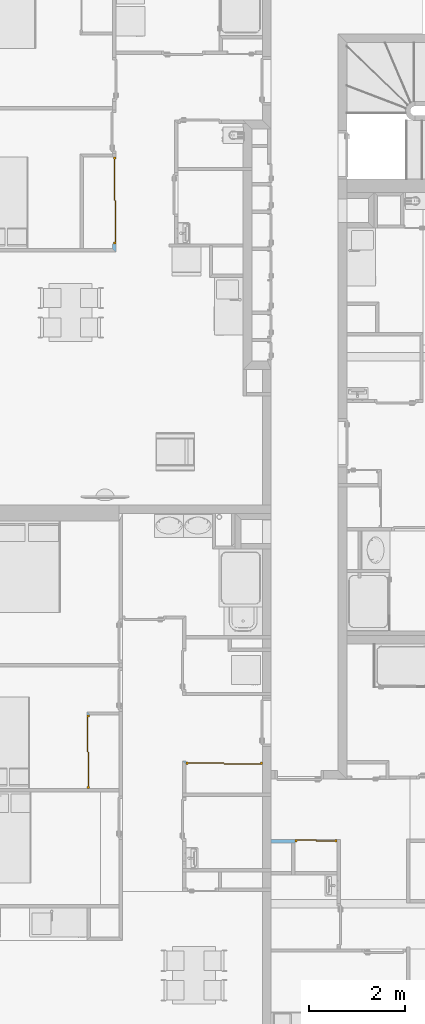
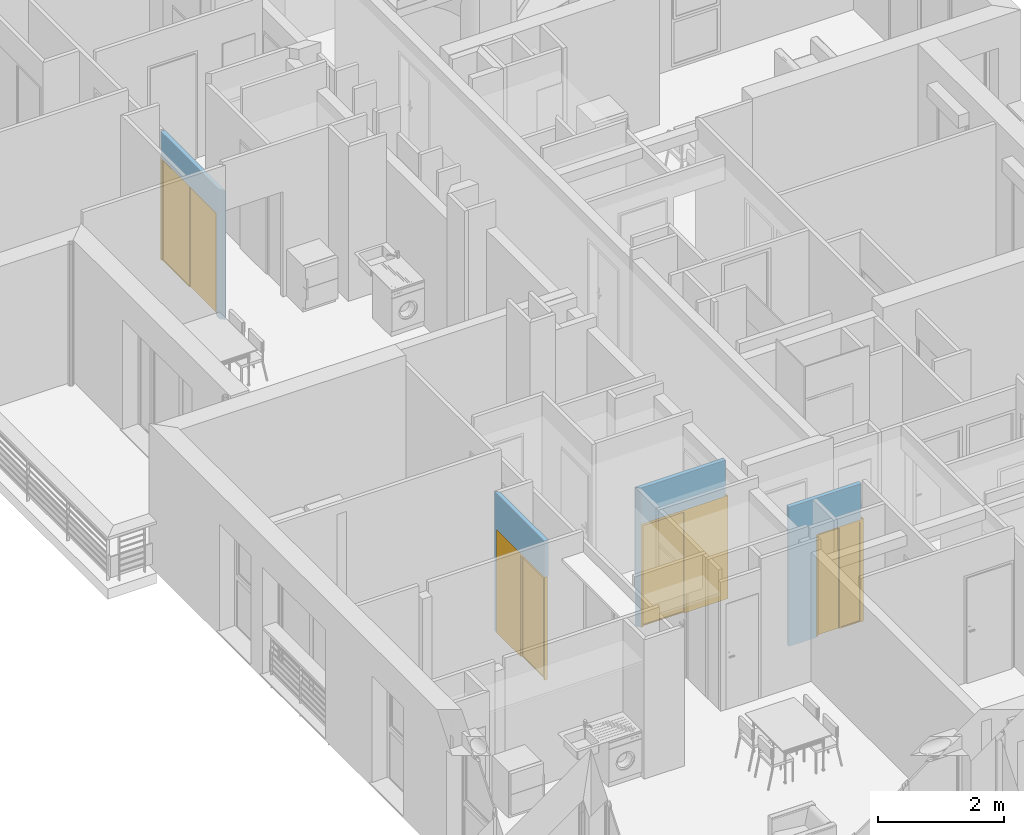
# One storey, part 87 of 164: 4 doors, 4 openings, plus 4 elements that do not belong to this part.
"""IFC2X3 building model written with IfcOpenShell, lengths in millimetres."""

import ifcopenshell
import ifcopenshell.guid

model = None  # the IFC model being written
_history = None  # IfcOwnerHistory: only IFC2X3 demands one
_inside = {}  # id of a spatial element -> (the spatial element, [elements in it])
_under = {}  # id of a project, library or spatial element -> (it, [spatial elements below it])
_declared = {}  # id of a project -> (the project, [libraries it declares])
_typed = {}  # id of a type object -> (the type object, [elements of that type])
_made_of = {}  # id of a material, layer set ... -> (it, [elements and type objects made of it])


def new_model(schema):
    """Start an empty IFC model of exactly this schema.

    Asked for "IFC4X3", IfcOpenShell would pick the latest addendum, in which some entities
    have other attributes; the version numbers below select the first issue.
    IFC2X3 requires an IfcOwnerHistory on every rooted entity: one is made here for all.
    """
    global model, _history
    if schema == "IFC4X3":
        model = ifcopenshell.file(schema_version=(4, 3, 0, 0))
    else:
        model = ifcopenshell.file(schema=schema)
    _inside.clear()
    _under.clear()
    _declared.clear()
    _typed.clear()
    _made_of.clear()
    _history = None
    if model.schema == "IFC2X3":
        org = make("IfcOrganization", Name="unknown")
        user = make(
            "IfcPersonAndOrganization",
            ThePerson=make("IfcPerson", FamilyName="unknown"),
            TheOrganization=org,
        )
        app = make(
            "IfcApplication",
            ApplicationDeveloper=org,
            Version="unknown",
            ApplicationFullName="unknown",
            ApplicationIdentifier="unknown",
        )
        _history = make(
            "IfcOwnerHistory",
            OwningUser=user,
            OwningApplication=app,
            ChangeAction="ADDED",
            CreationDate=0,
        )
    return model


def make(cls, **values):
    """One entity of the class cls with the attributes given. An attribute that is None is left unset."""
    return model.create_entity(
        cls, **{name: value for name, value in values.items() if value is not None}
    )


def entity(cls, *values):
    """Any entity or typed value of the class cls, its attributes in the order of the schema. None: left unset."""
    e = model.create_entity(cls)
    for i, value in enumerate(values):
        if value is not None:
            e[i] = value
    return e


def rooted(cls, **values):
    """An entity with a GlobalId (a new one), such as an element, a storey or a relation."""
    return make(cls, GlobalId=ifcopenshell.guid.new(), OwnerHistory=_history, **values)


def si_unit(unit_type, name, prefix=None):
    """IfcSIUnit, for example si_unit("LENGTHUNIT", "METRE", prefix="MILLI")."""
    return make("IfcSIUnit", UnitType=unit_type, Prefix=prefix, Name=name)


def converted_unit(unit_type, name, factor, base, dimensions=None, offset=None):
    """IfcConversionBasedUnit, such as the inch: factor (a typed value) times the base unit."""
    return make(
        "IfcConversionBasedUnit"
        if offset is None
        else "IfcConversionBasedUnitWithOffset",
        ConversionOffset=offset,
        Dimensions=None
        if dimensions is None
        else entity("IfcDimensionalExponents", *dimensions),
        UnitType=unit_type,
        Name=name,
        ConversionFactor=make(
            "IfcMeasureWithUnit", ValueComponent=factor, UnitComponent=base
        ),
    )


def derived_unit(unit_type, elements):
    """IfcDerivedUnit: a product of units, each with its exponent."""
    return make(
        "IfcDerivedUnit",
        Elements=[
            make("IfcDerivedUnitElement", Unit=unit, Exponent=power)
            for unit, power in elements
        ],
        UnitType=unit_type,
    )


def money_unit(currency):
    """IfcMonetaryUnit."""
    return make("IfcMonetaryUnit", Currency=currency)


def assignment(units):
    """IfcUnitAssignment: the units of a project."""
    return None if units is None else make("IfcUnitAssignment", Units=units)


def point(xyz):
    """IfcCartesianPoint."""
    return None if xyz is None else make("IfcCartesianPoint", Coordinates=xyz)


def direction(xyz):
    """IfcDirection."""
    return None if xyz is None else make("IfcDirection", DirectionRatios=xyz)


def frame(location, z_axis=None, x_axis=None):
    """IfcAxis2Placement3D, a coordinate frame: its origin and axes. An axis left out is left unset."""
    return make(
        "IfcAxis2Placement3D",
        Location=point(location),
        Axis=direction(z_axis),
        RefDirection=direction(x_axis),
    )


def frame_2d(location, x_axis=None):
    """IfcAxis2Placement2D, a coordinate frame in the plane: its origin and x axis."""
    return make(
        "IfcAxis2Placement2D", Location=point(location), RefDirection=direction(x_axis)
    )


def origin_with_axes():
    """The frame at (0, 0, 0) with the z axis (0, 0, 1) and the x axis (1, 0, 0) written out."""
    return frame((0.0, 0.0, 0.0), z_axis=(0.0, 0.0, 1.0), x_axis=(1.0, 0.0, 0.0))


def origin_2d_with_axis():
    """The frame at (0, 0) in the plane with the x axis (1, 0) written out."""
    return frame_2d((0.0, 0.0), x_axis=(1.0, 0.0))


def place(relative_to, where):
    """IfcLocalPlacement: puts the frame where relative to a parent placement (None: the world)."""
    return make(
        "IfcLocalPlacement", PlacementRelTo=relative_to, RelativePlacement=where
    )


def context(
    kind, dimensions, precision=None, world=None, true_north=None, identifier=None
):
    """IfcGeometricRepresentationContext, for example the 3D "Model" context."""
    return make(
        "IfcGeometricRepresentationContext",
        ContextIdentifier=identifier,
        ContextType=kind,
        CoordinateSpaceDimension=dimensions,
        Precision=precision,
        WorldCoordinateSystem=world,
        TrueNorth=true_north,
    )


def subcontext(parent, identifier, kind, view, scale=None):
    """IfcGeometricRepresentationSubContext, for example "Body" below "Model"."""
    return make(
        "IfcGeometricRepresentationSubContext",
        ContextIdentifier=identifier,
        ContextType=kind,
        ParentContext=parent,
        TargetScale=scale,
        TargetView=view,
    )


def project(units=None, contexts=None):
    """IfcProject with its units and contexts."""
    return rooted(
        "IfcProject",
        Name="project",
        RepresentationContexts=contexts,
        UnitsInContext=assignment(units),
    )


def spatial(cls, under=None, at=None, **own):
    """A site, building, storey or space (cls), placed at a placement, below another one or the project."""
    s = rooted(cls, ObjectPlacement=at, **own)
    if under is not None:
        _under.setdefault(under.id(), (under, []))[1].append(s)
    return s


def polyline(points):
    """IfcPolyline through the points."""
    return make("IfcPolyline", Points=[point(p) for p in points])


def profile(cls, at=None, kind="AREA", **sizes):
    """A parametric profile (cls). Its sizes go by their IFC names, for example OverallWidth=200.0."""
    return make(cls, ProfileType=kind, Position=at, **sizes)


def rectangle(**sizes):
    """IfcRectangleProfileDef."""
    return profile("IfcRectangleProfileDef", **sizes)


def outline(outer, holes=None, kind="AREA"):
    """IfcArbitraryClosedProfileDef: a profile drawn as a closed curve; with holes, ...WithVoids."""
    if holes is None:
        return make("IfcArbitraryClosedProfileDef", ProfileType=kind, OuterCurve=outer)
    return make(
        "IfcArbitraryProfileDefWithVoids",
        ProfileType=kind,
        OuterCurve=outer,
        InnerCurves=holes,
    )


def extrude(swept, where, along, depth):
    """IfcExtrudedAreaSolid: the profile swept, set in the frame where, extruded along a direction by depth."""
    return make(
        "IfcExtrudedAreaSolid",
        SweptArea=swept,
        Position=where,
        ExtrudedDirection=direction(along),
        Depth=depth,
    )


def faces_of(points, faces, orient=None, outer=None):
    """IfcFace entities. A face is a list of loops; a loop is a list of indices into points, from 0.

    orient and outer hold one flag for each loop. By default every Orientation is true, the
    first loop of a face is its IfcFaceOuterBound and the others are IfcFaceBound.
    """
    made = []
    for i, loops in enumerate(faces):
        bounds = []
        for j, loop in enumerate(loops):
            is_outer = j == 0 if outer is None else outer[i][j]
            bounds.append(
                make(
                    "IfcFaceOuterBound" if is_outer else "IfcFaceBound",
                    Bound=make("IfcPolyLoop", Polygon=[points[k] for k in loop]),
                    Orientation=True if orient is None else orient[i][j],
                )
            )
        made.append(make("IfcFace", Bounds=bounds))
    return made


def open_shell(faces, orient=None, outer=None):
    """The faces of one IfcOpenShell. surface_model builds it on its shared points."""
    return ("IfcOpenShell", faces, orient, outer)


def faceted_brep(points, faces, orient=None, outer=None, voids=None):
    """IfcFacetedBrep: a solid bounded by flat faces; with voids (closed shells), ...WithVoids."""
    shared = [point(p) for p in points]
    hull = make("IfcClosedShell", CfsFaces=faces_of(shared, faces, orient, outer))
    if voids is None:
        return make("IfcFacetedBrep", Outer=hull)
    return make(
        "IfcFacetedBrepWithVoids",
        Outer=hull,
        Voids=[
            make(cls, CfsFaces=faces_of(shared, fs, o, b)) for cls, fs, o, b in voids
        ],
    )


def surface_model(cls, points, shells):
    """IfcFaceBasedSurfaceModel or IfcShellBasedSurfaceModel (cls): surfaces that need not close."""
    shared = [point(p) for p in points]
    made = [make(c, CfsFaces=faces_of(shared, fs, o, b)) for c, fs, o, b in shells]
    if cls == "IfcFaceBasedSurfaceModel":
        return make(cls, FbsmFaces=made)
    return make(cls, SbsmBoundary=made)


def shape(context_of_items, identifier, shape_type, items):
    """IfcShapeRepresentation: the items that make up one representation, for example the "Body"."""
    return make(
        "IfcShapeRepresentation",
        ContextOfItems=context_of_items,
        RepresentationIdentifier=identifier,
        RepresentationType=shape_type,
        Items=items,
    )


def material(Name=None, Category=None):
    """IfcMaterial."""
    return make("IfcMaterial", Name=Name, Category=Category)


def layer(
    of_material, thickness, ventilated=None, Name=None, Category=None, Priority=None
):
    """IfcMaterialLayer: one layer of a wall or slab, of a material (None: an air gap)."""
    return make(
        "IfcMaterialLayer",
        Material=of_material,
        LayerThickness=thickness,
        IsVentilated=ventilated,
        Name=Name,
        Category=Category,
        Priority=Priority,
    )


def layer_set(layers, Name=None):
    """IfcMaterialLayerSet."""
    return make("IfcMaterialLayerSet", MaterialLayers=layers, LayerSetName=Name)


def layer_usage(for_layer_set, set_direction, sense, offset, extent=None):
    """IfcMaterialLayerSetUsage: how a layer set lies in its element."""
    return make(
        "IfcMaterialLayerSetUsage",
        ForLayerSet=for_layer_set,
        LayerSetDirection=set_direction,
        DirectionSense=sense,
        OffsetFromReferenceLine=offset,
        ReferenceExtent=extent,
    )


def made_of(thing, what):
    """Note that an element or type object is made of a material, layer set ...; save() writes the relation."""
    if what is not None:
        _made_of.setdefault(what.id(), (what, []))[1].append(thing)
    return thing


def type_object(cls, material=None, **own):
    """A type object (cls), such as IfcWallType, which elements share."""
    return made_of(rooted(cls, **own), material)


def element(
    cls,
    number,
    at=None,
    inside=None,
    cuts=None,
    type_object=None,
    material=None,
    context=None,
    identifier="Body",
    shape_type=None,
    held_by="IfcProductDefinitionShape",
    body=None,
    shapes=None,
    **own,
):
    """One element of the class cls, such as IfcWall. Its Tag is "e" and its number.

    at: its placement. inside: the storey or other place that contains it. cuts: it is an
    opening in that element (IfcRelVoidsElement). A single representation is given by context,
    identifier, shape_type and body (its items); several are given by shapes. held_by: the class
    of the entity that holds the representations. save() writes the other relations.
    """
    e = rooted(cls, Tag="e%d" % number, ObjectPlacement=at, **own)
    if body is not None:
        shapes = [shape(context, identifier, shape_type, body)]
    if shapes is not None:
        e.Representation = make(held_by, Representations=shapes)
    if inside is not None:
        _inside.setdefault(inside.id(), (inside, []))[1].append(e)
    if cuts is not None:
        rooted(
            "IfcRelVoidsElement", RelatingBuildingElement=cuts, RelatedOpeningElement=e
        )
    if type_object is not None:
        _typed.setdefault(type_object.id(), (type_object, []))[1].append(e)
    return made_of(e, material)


def fill(opening, filler):
    """IfcRelFillsElement: the door or window that sits in an opening."""
    return rooted(
        "IfcRelFillsElement",
        RelatingOpeningElement=opening,
        RelatedBuildingElement=filler,
    )


def aggregate(whole, parts):
    """IfcRelAggregates: a whole, such as a stair, and the parts it consists of."""
    return rooted("IfcRelAggregates", RelatingObject=whole, RelatedObjects=parts)


def save(model, path):
    """Write the relations noted so far, then the file.

    IfcRelAggregates (storeys below a building ...), IfcRelContainedInSpatialStructure (elements
    in a storey), IfcRelDefinesByType, IfcRelAssociatesMaterial and IfcRelDeclares: one each for
    every whole, place, type object, material and project.
    """
    for whole, parts in _under.values():
        aggregate(whole, parts)
    for where, things in _inside.values():
        rooted(
            "IfcRelContainedInSpatialStructure",
            RelatedElements=things,
            RelatingStructure=where,
        )
    for kind, things in _typed.values():
        rooted("IfcRelDefinesByType", RelatedObjects=things, RelatingType=kind)
    for what, things in _made_of.values():
        rooted("IfcRelAssociatesMaterial", RelatedObjects=things, RelatingMaterial=what)
    for by, libraries in _declared.values():
        rooted("IfcRelDeclares", RelatingContext=by, RelatedDefinitions=libraries)
    model.write(path)


model = new_model("IFC2X3")

# Units and contexts
model_context = context("Model", 3, precision=0.01, world=origin_with_axes(), true_north=direction((0.0, 1.0)))
body_context = subcontext(model_context, "Body", "Model", "MODEL_VIEW")
ifc_project = project(units=[si_unit("LENGTHUNIT", "METRE", prefix="MILLI"), si_unit("AREAUNIT", "SQUARE_METRE"), si_unit("VOLUMEUNIT", "CUBIC_METRE"), converted_unit("PLANEANGLEUNIT", "DEGREE", entity("IfcPlaneAngleMeasure", 0.0174532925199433), si_unit("PLANEANGLEUNIT", "RADIAN"), dimensions=[0, 0, 0, 0, 0, 0, 0]), money_unit("USD"), converted_unit("TIMEUNIT", "Year", entity("IfcTimeMeasure", 31557600.0), si_unit("TIMEUNIT", "SECOND"), dimensions=[0, 0, 1, 0, 0, 0, 0]), si_unit("MASSUNIT", "GRAM", prefix="KILO"), si_unit("THERMODYNAMICTEMPERATUREUNIT", "DEGREE_CELSIUS"), si_unit("LUMINOUSINTENSITYUNIT", "LUMEN"), si_unit("ENERGYUNIT", "JOULE", prefix="MEGA"), derived_unit("THERMALCONDUCTANCEUNIT", [(si_unit("POWERUNIT", "WATT"), 1), (si_unit("LENGTHUNIT", "METRE"), -1), (si_unit("THERMODYNAMICTEMPERATUREUNIT", "KELVIN"), -1)]), derived_unit("SPECIFICHEATCAPACITYUNIT", [(si_unit("ENERGYUNIT", "JOULE"), 1), (si_unit("MASSUNIT", "GRAM", prefix="KILO"), -1), (si_unit("THERMODYNAMICTEMPERATUREUNIT", "KELVIN"), -1)]), derived_unit("MASSDENSITYUNIT", [(si_unit("MASSUNIT", "GRAM", prefix="KILO"), 1), (si_unit("VOLUMEUNIT", "CUBIC_METRE"), -1)])], contexts=[model_context])

# Site, building, storey
site_placement = place(None, origin_with_axes())
site = spatial("IfcSite", under=ifc_project, at=site_placement, Name="Site", CompositionType="ELEMENT")
building_placement = place(site_placement, origin_with_axes())
building = spatial("IfcBuilding", under=site, at=building_placement, Name="Bâtiment", CompositionType="ELEMENT")
storey_placement = place(building_placement, frame((0.0, 0.0, 5750.0), z_axis=(0.0, 0.0, 1.0), x_axis=(1.0, 0.0, 0.0)))
storey = spatial("IfcBuildingStorey", under=building, at=storey_placement, Name="Etage1", CompositionType="ELEMENT", Elevation=5750.0)

# Wall, opening, door
ifc_material = material(Name="Hachure solide 268963992")
ifc_layer = layer(ifc_material, 70.0, ventilated="UNKNOWN")
ifc_layer_set = layer_set([ifc_layer], Name="Cloison 70 0826278243")
ifc_layer_usage_1 = layer_usage(ifc_layer_set, "AXIS2", "NEGATIVE", 70.0)
wall_type = type_object("IfcWallType", Name="Cloison 70 0826278243 70", PredefinedType="NOTDEFINED")
wall_1_placement = place(storey_placement, frame((2221010.880755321, -636817.9291753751, 0.0), z_axis=(0.0, 0.0, 1.0), x_axis=(-2.570276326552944e-07, -0.999999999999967, 0.0)))
wall_1 = element("IfcWallStandardCase", 1, at=wall_1_placement, inside=storey, type_object=wall_type, material=ifc_layer_usage_1, Name="Mur-149", context=body_context, shape_type="SweptSolid", body=[
    extrude(outline(polyline([(0.0, 0.0), (1858.878523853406, 0.0), (1928.878505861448, 70.00000000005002), (0.0, 70.00000000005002), (0.0, 0.0)])), origin_with_axes(), (0.0, 0.0, 1.0), 2512.25122490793),
])
opening_1_placement = place(wall_1_placement, frame((861.2301836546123, 1.13686837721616e-10, 0.0), z_axis=(0.0, 0.0, 1.0), x_axis=(1.0, 0.0, 0.0)))
opening_1 = element("IfcOpeningElement", 2, at=opening_1_placement, cuts=wall_1, Name="Por-321", context=body_context, shape_type="SweptSolid", body=[
    extrude(rectangle(XDim=1805.731663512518, YDim=2000.0, at=origin_2d_with_axis()), frame((0.0, 70.00000000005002, 1000.0), z_axis=(0.0, -1.0, 0.0), x_axis=(1.0, 0.0, 0.0)), (0.0, 0.0, -1.0), 70.0),
    extrude(rectangle(XDim=1805.731663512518, YDim=2000.0, at=origin_2d_with_axis()), frame((0.0, 70.00000000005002, 1000.0), z_axis=(0.0, 1.0, 0.0), x_axis=(1.0, 0.0, 0.0)), (0.0, 0.0, -1.0), 70.0),
])
door_style = type_object("IfcDoorStyle", ConstructionType="NOTDEFINED", OperationType="NOTDEFINED", ParameterTakesPrecedence=False, Sizeable=False)
door_1_placement = place(opening_1_placement, frame((-902.8658317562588, -2.273736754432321e-10, 0.0), z_axis=(0.0, 0.0, 1.0), x_axis=(1.0, 0.0, 0.0)))
door_1 = element("IfcDoor", 3, at=door_1_placement, inside=storey, type_object=door_style, Name="Por-321", OverallHeight=2000.0, OverallWidth=1805.73, context=body_context, shape_type="SurfaceModel", body=[
    faceted_brep([(1805.731663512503, 70.00000000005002, 0.0), (1765.731663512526, 70.00000000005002, 0.0), (1765.731663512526, 70.00000000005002, 1960.0), (39.99999999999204, 70.00000000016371, 1960.0), (39.99999999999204, 70.00000000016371, 0.0), (0.0, 70.00000000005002, 0.0), (0.0, 70.00000000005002, 2000.0), (1805.731663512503, 70.00000000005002, 2000.0), (1805.731663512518, 19.99999999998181, 0.0), (1765.731663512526, 20.0000000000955, 0.0), (1765.731663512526, 60.00000000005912, 0.0), (1765.731663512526, 60.00000000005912, 1960.0), (39.99999999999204, 60.00000000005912, 1960.0), (39.99999999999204, 60.00000000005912, 0.0), (40.00000000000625, 19.99999999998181, 0.0), (0.0, 20.0000000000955, 0.0), (0.0, 20.0000000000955, 2000.0), (1805.731663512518, 19.99999999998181, 2000.0), (40.00000000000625, 19.99999999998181, 1960.0), (1765.731663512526, 20.0000000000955, 1960.0)], [[[0, 1, 2, 3, 4, 5, 6, 7]], [[0, 8, 9, 10, 1]], [[1, 10, 11, 2]], [[2, 11, 12, 3]], [[3, 12, 13, 4]], [[5, 4, 13, 14, 15]], [[16, 6, 5, 15]], [[17, 7, 6, 16]], [[8, 0, 7, 17]], [[9, 8, 17, 16, 15, 14, 18, 19]], [[10, 9, 19, 11]], [[11, 19, 18, 12]], [[12, 18, 14, 13]]]),
    faceted_brep([(39.99999999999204, 50.00000000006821, 0.0), (902.8658317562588, 50.00000000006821, 0.0), (902.865831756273, 30.0000000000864, 0.0), (40.00000000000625, 29.99999999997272, 0.0), (39.99999999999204, 50.00000000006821, 1960.0), (902.8658317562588, 50.00000000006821, 1960.0), (59.99999999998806, 50.00000000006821, 19.99999999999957), (882.8658317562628, 50.00000000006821, 19.99999999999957), (882.8658317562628, 50.00000000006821, 1940.0), (59.99999999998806, 50.00000000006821, 1940.0), (902.865831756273, 30.0000000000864, 1960.0), (40.00000000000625, 29.99999999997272, 1960.0), (59.99999999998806, 30.0000000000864, 19.99999999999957), (59.99999999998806, 30.0000000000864, 1940.0), (882.8658317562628, 29.99999999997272, 1940.0), (882.8658317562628, 29.99999999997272, 19.99999999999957)], [[[0, 1, 2, 3]], [[0, 4, 5, 1], [6, 7, 8, 9]], [[1, 5, 10, 2]], [[3, 2, 10, 11], [12, 13, 14, 15]], [[4, 0, 3, 11]], [[5, 4, 11, 10]], [[7, 6, 12, 15]], [[8, 7, 15, 14]], [[9, 8, 14, 13]], [[6, 9, 13, 12]]]),
    surface_model("IfcShellBasedSurfaceModel", [(59.99999999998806, 40.00000000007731, 19.99999999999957), (882.8658317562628, 40.00000000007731, 19.99999999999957), (882.8658317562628, 40.00000000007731, 1940.0), (59.99999999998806, 40.00000000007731, 1940.0)], [open_shell([[[0, 1, 2, 3]]])]),
    faceted_brep([(897.8658317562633, 70.00000000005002, 0.0), (1765.731663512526, 70.00000000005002, 0.0), (1765.73166351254, 50.00000000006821, 0.0), (897.8658317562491, 50.00000000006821, 0.0), (897.8658317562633, 70.00000000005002, 1960.0), (1765.731663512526, 70.00000000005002, 1960.0), (1765.73166351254, 50.00000000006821, 1960.0), (897.8658317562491, 50.00000000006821, 1960.0)], [[[0, 1, 2, 3]], [[0, 4, 5, 1]], [[1, 5, 6, 2]], [[3, 2, 6, 7]], [[4, 0, 3, 7]], [[5, 4, 7, 6]]]),
])
fill(opening_1, door_1)

ifc_layer_usage_2 = layer_usage(ifc_layer_set, "AXIS2", "NEGATIVE", 70.0)
wall_2_placement = place(storey_placement, frame((2220482.351167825, -648325.5587458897, 0.0), z_axis=(0.0, 0.0, 1.0), x_axis=(-1.073144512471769e-07, -0.9999999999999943, 0.0)))
wall_2 = element("IfcWallStandardCase", 4, at=wall_2_placement, inside=storey, type_object=wall_type, material=ifc_layer_usage_2, Name="Mur-149", context=body_context, shape_type="SweptSolid", body=[
    extrude(outline(polyline([(0.0, 0.0), (1595.2278793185, 0.0), (1595.227871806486, 70.00000000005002), (69.99999248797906, 70.00000000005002), (0.0, 0.0)])), origin_with_axes(), (0.0, 0.0, 1.0), 2700.0),
])
opening_2_placement = place(wall_2_placement, frame((832.6139321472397, 2.273736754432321e-10, 0.0), z_axis=(0.0, 0.0, 1.0), x_axis=(1.0, 0.0, 0.0)))
opening_2 = element("IfcOpeningElement", 5, at=opening_2_placement, cuts=wall_2, Name="Por-321", context=body_context, shape_type="SweptSolid", body=[
    extrude(rectangle(XDim=1525.227879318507, YDim=2000.0, at=origin_2d_with_axis()), frame((0.0, 0.0, 1000.0), z_axis=(0.0, 1.0, 0.0), x_axis=(1.0, 0.0, 0.0)), (0.0, 0.0, -1.0), 70.0),
    extrude(rectangle(XDim=1525.227879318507, YDim=2000.0, at=origin_2d_with_axis()), frame((0.0, 0.0, 1000.0), z_axis=(0.0, -1.0, 0.0), x_axis=(1.0, 0.0, 0.0)), (0.0, 0.0, -1.0), 70.0),
])
door_2_placement = place(opening_2_placement, frame((762.6139396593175, 2.273736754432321e-10, 0.0), z_axis=(0.0, 0.0, 1.0), x_axis=(-1.0, 0.0, 0.0)))
door_2 = element("IfcDoor", 6, at=door_2_placement, inside=storey, type_object=door_style, Name="Por-321", OverallHeight=2000.0, OverallWidth=1525.23, context=body_context, shape_type="SurfaceModel", body=[
    faceted_brep([(1525.227879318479, 0.0, 0.0), (1485.227879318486, 0.0, 0.0), (1485.227879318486, 0.0, 1960.0), (40.00000000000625, 0.0, 1960.0), (40.00000000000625, 0.0, 0.0), (0.0, 0.0, 0.0), (0.0, 0.0, 2000.0), (1525.227879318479, 0.0, 2000.0), (1525.227879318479, -49.99999999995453, 0.0), (1485.227879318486, -49.99999999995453, 0.0), (1485.227879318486, -9.999999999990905, 0.0), (1485.227879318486, -9.999999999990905, 1960.0), (40.00000000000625, -9.999999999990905, 1960.0), (40.00000000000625, -9.999999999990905, 0.0), (40.00000000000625, -49.99999999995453, 0.0), (0.0, -50.00000000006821, 0.0), (0.0, -50.00000000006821, 2000.0), (1525.227879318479, -49.99999999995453, 2000.0), (40.00000000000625, -49.99999999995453, 1960.0), (1485.227879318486, -49.99999999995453, 1960.0)], [[[0, 1, 2, 3, 4, 5, 6, 7]], [[0, 8, 9, 10, 1]], [[1, 10, 11, 2]], [[2, 11, 12, 3]], [[3, 12, 13, 4]], [[5, 4, 13, 14, 15]], [[16, 6, 5, 15]], [[17, 7, 6, 16]], [[8, 0, 7, 17]], [[9, 8, 17, 16, 15, 14, 18, 19]], [[10, 9, 19, 11]], [[11, 19, 18, 12]], [[12, 18, 14, 13]]]),
    faceted_brep([(40.00000000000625, -19.99999999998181, 0.0), (762.6139396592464, -19.99999999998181, 0.0), (762.6139396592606, -39.99999999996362, 0.0), (40.00000000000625, -39.99999999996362, 0.0), (40.00000000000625, -19.99999999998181, 1960.0), (762.6139396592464, -19.99999999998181, 1960.0), (60.00000000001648, -19.99999999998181, 19.99999999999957), (742.6139396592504, -19.99999999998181, 19.99999999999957), (742.6139396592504, -19.99999999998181, 1940.0), (60.00000000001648, -19.99999999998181, 1940.0), (762.6139396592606, -39.99999999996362, 1960.0), (40.00000000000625, -39.99999999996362, 1960.0), (60.00000000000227, -39.99999999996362, 19.99999999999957), (60.00000000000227, -39.99999999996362, 1940.0), (742.6139396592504, -39.99999999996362, 1940.0), (742.6139396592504, -39.99999999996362, 19.99999999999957)], [[[0, 1, 2, 3]], [[0, 4, 5, 1], [6, 7, 8, 9]], [[1, 5, 10, 2]], [[3, 2, 10, 11], [12, 13, 14, 15]], [[4, 0, 3, 11]], [[5, 4, 11, 10]], [[7, 6, 12, 15]], [[8, 7, 15, 14]], [[9, 8, 14, 13]], [[6, 9, 13, 12]]]),
    surface_model("IfcShellBasedSurfaceModel", [(60.00000000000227, -29.99999999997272, 19.99999999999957), (742.6139396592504, -29.99999999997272, 19.99999999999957), (742.6139396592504, -29.99999999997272, 1940.0), (60.00000000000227, -29.99999999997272, 1940.0)], [open_shell([[[0, 1, 2, 3]]])]),
    faceted_brep([(757.6139396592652, 0.0, 0.0), (1485.227879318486, 0.0, 0.0), (1485.227879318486, -19.99999999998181, 0.0), (757.613939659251, -19.99999999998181, 0.0), (757.6139396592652, 0.0, 1960.0), (1485.227879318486, 0.0, 1960.0), (1485.227879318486, -19.99999999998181, 1960.0), (757.613939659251, -19.99999999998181, 1960.0)], [[[0, 1, 2, 3]], [[0, 4, 5, 1]], [[1, 5, 6, 2]], [[3, 2, 6, 7]], [[4, 0, 3, 7]], [[5, 4, 7, 6]]]),
])
fill(opening_2, door_2)

ifc_layer_usage_3 = layer_usage(ifc_layer_set, "AXIS2", "NEGATIVE", 70.0)
wall_3_placement = place(storey_placement, frame((2224312.032083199, -651054.3517134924, 0.0), z_axis=(0.0, 0.0, 1.0), x_axis=(1.0, 0.0, 0.0)))
wall_3 = element("IfcWallStandardCase", 7, at=wall_3_placement, inside=storey, type_object=wall_type, material=ifc_layer_usage_3, Name="Mur-149", context=body_context, shape_type="SweptSolid", body=[
    extrude(outline(polyline([(0.0, 0.0), (1321.010257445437, 0.0), (1321.010257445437, 69.99999999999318), (0.0, 69.99999999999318), (0.0, 0.0)])), origin_with_axes(), (0.0, 0.0, 1.0), 2700.0),
])
opening_3_placement = place(wall_3_placement, frame((938.825091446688, 0.0, 0.0), z_axis=(0.0, 0.0, 1.0), x_axis=(1.0, 0.0, 0.0)))
opening_3 = element("IfcOpeningElement", 8, at=opening_3_placement, cuts=wall_3, Name="Por-321", context=body_context, shape_type="SweptSolid", body=[
    extrude(rectangle(XDim=871.9315934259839, YDim=2000.0, at=origin_2d_with_axis()), frame((0.0, 69.99999999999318, 1000.0), z_axis=(0.0, -1.0, 0.0), x_axis=(1.0, 0.0, 0.0)), (0.0, 0.0, -1.0), 70.0),
    extrude(rectangle(XDim=871.9315934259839, YDim=2000.0, at=origin_2d_with_axis()), frame((0.0, 69.99999999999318, 1000.0), z_axis=(0.0, 1.0, 0.0), x_axis=(1.0, 0.0, 0.0)), (0.0, 0.0, -1.0), 70.0),
])
door_3_placement = place(opening_3_placement, frame((-435.9657967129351, 0.0, 0.0), z_axis=(0.0, 0.0, 1.0), x_axis=(1.0, 0.0, 0.0)))
door_3 = element("IfcDoor", 9, at=door_3_placement, inside=storey, type_object=door_style, Name="Por-321", OverallHeight=2000.0, OverallWidth=871.932, context=body_context, shape_type="SurfaceModel", body=[
    faceted_brep([(0.0, 69.99999999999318, 0.0), (0.0, 69.99999999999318, 2000.0), (871.9315934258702, 69.99999999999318, 2000.0), (871.9315934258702, 69.99999999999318, 0.0), (831.9315934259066, 69.99999999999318, 0.0), (831.9315934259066, 69.99999999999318, 1960.0), (39.99999999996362, 69.99999999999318, 1960.0), (39.99999999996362, 69.99999999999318, 0.0), (0.0, 19.99999999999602, 0.0), (0.0, 19.99999999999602, 2000.0), (871.9315934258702, 19.99999999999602, 2000.0), (871.9315934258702, 19.99999999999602, 0.0), (831.9315934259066, 19.99999999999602, 0.0), (831.9315934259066, 59.99999999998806, 0.0), (831.9315934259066, 59.99999999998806, 1960.0), (39.99999999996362, 59.99999999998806, 1960.0), (39.99999999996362, 59.99999999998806, 0.0), (39.99999999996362, 19.99999999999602, 0.0), (39.99999999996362, 19.99999999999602, 1960.0), (831.9315934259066, 19.99999999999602, 1960.0)], [[[0, 1, 2, 3, 4, 5, 6, 7]], [[8, 9, 1, 0]], [[9, 10, 2, 1]], [[10, 11, 3, 2]], [[3, 11, 12, 13, 4]], [[5, 4, 13, 14]], [[6, 5, 14, 15]], [[7, 6, 15, 16]], [[0, 7, 16, 17, 8]], [[17, 18, 19, 12, 11, 10, 9, 8]], [[14, 13, 12, 19]], [[15, 14, 19, 18]], [[16, 15, 18, 17]]]),
    faceted_brep([(831.9315934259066, 49.99999999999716, 0.0), (831.9315934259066, 29.99999999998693, 0.0), (435.9657967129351, 29.99999999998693, 0.0), (435.9657967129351, 49.99999999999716, 0.0), (831.9315934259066, 49.99999999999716, 1960.0), (831.9315934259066, 29.99999999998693, 1960.0), (435.9657967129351, 29.99999999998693, 1960.0), (811.9315934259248, 29.99999999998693, 19.99999999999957), (455.9657967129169, 29.99999999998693, 19.99999999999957), (455.9657967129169, 29.99999999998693, 1940.0), (811.9315934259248, 29.99999999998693, 1940.0), (435.9657967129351, 49.99999999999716, 1960.0), (811.9315934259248, 49.99999999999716, 19.99999999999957), (811.9315934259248, 49.99999999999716, 1940.0), (455.9657967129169, 49.99999999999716, 1940.0), (455.9657967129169, 49.99999999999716, 19.99999999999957)], [[[0, 1, 2, 3]], [[4, 5, 1, 0]], [[1, 5, 6, 2], [7, 8, 9, 10]], [[3, 2, 6, 11]], [[0, 3, 11, 4], [12, 13, 14, 15]], [[11, 6, 5, 4]], [[15, 8, 7, 12]], [[14, 9, 8, 15]], [[13, 10, 9, 14]], [[12, 7, 10, 13]]]),
    surface_model("IfcShellBasedSurfaceModel", [(811.9315934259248, 39.99999999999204, 19.99999999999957), (811.9315934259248, 39.99999999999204, 1940.0), (455.9657967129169, 39.99999999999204, 1940.0), (455.9657967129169, 39.99999999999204, 19.99999999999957)], [open_shell([[[0, 1, 2, 3]]])]),
    faceted_brep([(440.9657967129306, 69.99999999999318, 0.0), (440.9657967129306, 49.99999999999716, 0.0), (39.99999999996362, 49.99999999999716, 0.0), (39.99999999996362, 69.99999999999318, 0.0), (440.9657967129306, 69.99999999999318, 1960.0), (440.9657967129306, 49.99999999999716, 1960.0), (39.99999999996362, 49.99999999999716, 1960.0), (39.99999999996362, 69.99999999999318, 1960.0)], [[[0, 1, 2, 3]], [[4, 5, 1, 0]], [[1, 5, 6, 2]], [[3, 2, 6, 7]], [[0, 3, 7, 4]], [[7, 6, 5, 4]]]),
])
fill(opening_3, door_3)

ifc_layer_usage_4 = layer_usage(ifc_layer_set, "AXIS2", "NEGATIVE", 70.0)
wall_4_placement = place(storey_placement, frame((2224092.318310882, -649348.3834312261, 0.0), z_axis=(0.0, 0.0, 1.0), x_axis=(-1.0, 0.0, 0.0)))
wall_4 = element("IfcWallStandardCase", 10, at=wall_4_placement, inside=storey, type_object=wall_type, material=ifc_layer_usage_4, Name="Mur-149", context=body_context, shape_type="SweptSolid", body=[
    extrude(outline(polyline([(0.0, 0.0), (1619.967188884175, 0.0), (1549.979179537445, 69.99999999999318), (0.0, 69.99999999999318), (0.0, 0.0)])), origin_with_axes(), (0.0, 0.0, 1.0), 2700.0),
])
opening_4_placement = place(wall_4_placement, frame((754.9929964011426, 0.0, 0.0), z_axis=(0.0, 0.0, 1.0), x_axis=(1.0, 0.0, 0.0)))
opening_4 = element("IfcOpeningElement", 11, at=opening_4_placement, cuts=wall_4, Name="Por-322", context=body_context, shape_type="SweptSolid", body=[
    extrude(rectangle(XDim=1589.985992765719, YDim=2000.0, at=origin_2d_with_axis()), frame((0.0, 69.99999999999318, 1000.0), z_axis=(0.0, -1.0, 0.0), x_axis=(1.0, 0.0, 0.0)), (0.0, 0.0, -1.0), 70.0),
    extrude(rectangle(XDim=1589.985992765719, YDim=2000.0, at=origin_2d_with_axis()), frame((0.0, 69.99999999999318, 1000.0), z_axis=(0.0, 1.0, 0.0), x_axis=(1.0, 0.0, 0.0)), (0.0, 0.0, -1.0), 70.0),
])
door_4_placement = place(opening_4_placement, frame((-794.9929963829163, 0.0, 0.0), z_axis=(0.0, 0.0, 1.0), x_axis=(1.0, 0.0, 0.0)))
door_4 = element("IfcDoor", 12, at=door_4_placement, inside=storey, type_object=door_style, Name="Por-322", OverallHeight=2000.0, OverallWidth=1589.99, context=body_context, shape_type="SurfaceModel", body=[
    faceted_brep([(0.0, 69.99999999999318, 0.0), (0.0, 69.99999999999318, 2000.0), (1589.985992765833, 69.99999999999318, 2000.0), (1589.985992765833, 69.99999999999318, 0.0), (1549.985992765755, 69.99999999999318, 0.0), (1549.985992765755, 69.99999999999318, 1960.0), (40.00000000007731, 69.99999999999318, 1960.0), (40.00000000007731, 69.99999999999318, 0.0), (0.0, 19.99999999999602, 0.0), (0.0, 19.99999999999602, 2000.0), (1589.985992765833, 19.99999999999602, 2000.0), (1589.985992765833, 19.99999999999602, 0.0), (1549.985992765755, 19.99999999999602, 0.0), (1549.985992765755, 59.99999999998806, 0.0), (1549.985992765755, 59.99999999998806, 1960.0), (40.00000000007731, 59.99999999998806, 1960.0), (40.00000000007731, 59.99999999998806, 0.0), (40.00000000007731, 19.99999999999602, 0.0), (40.00000000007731, 19.99999999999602, 1960.0), (1549.985992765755, 19.99999999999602, 1960.0)], [[[0, 1, 2, 3, 4, 5, 6, 7]], [[8, 9, 1, 0]], [[9, 10, 2, 1]], [[10, 11, 3, 2]], [[3, 11, 12, 13, 4]], [[5, 4, 13, 14]], [[6, 5, 14, 15]], [[7, 6, 15, 16]], [[0, 7, 16, 17, 8]], [[17, 18, 19, 12, 11, 10, 9, 8]], [[14, 13, 12, 19]], [[15, 14, 19, 18]], [[16, 15, 18, 17]]]),
    faceted_brep([(1549.985992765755, 49.99999999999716, 0.0), (1549.985992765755, 29.99999999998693, 0.0), (794.9929963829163, 29.99999999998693, 0.0), (794.9929963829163, 49.99999999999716, 0.0), (1549.985992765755, 49.99999999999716, 1960.0), (1549.985992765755, 29.99999999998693, 1960.0), (794.9929963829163, 29.99999999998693, 1960.0), (1529.985992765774, 29.99999999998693, 19.99999999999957), (814.9929963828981, 29.99999999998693, 19.99999999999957), (814.9929963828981, 29.99999999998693, 1940.0), (1529.985992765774, 29.99999999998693, 1940.0), (794.9929963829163, 49.99999999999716, 1960.0), (1529.985992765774, 49.99999999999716, 19.99999999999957), (1529.985992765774, 49.99999999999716, 1940.0), (814.9929963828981, 49.99999999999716, 1940.0), (814.9929963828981, 49.99999999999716, 19.99999999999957)], [[[0, 1, 2, 3]], [[4, 5, 1, 0]], [[1, 5, 6, 2], [7, 8, 9, 10]], [[3, 2, 6, 11]], [[0, 3, 11, 4], [12, 13, 14, 15]], [[11, 6, 5, 4]], [[15, 8, 7, 12]], [[14, 9, 8, 15]], [[13, 10, 9, 14]], [[12, 7, 10, 13]]]),
    surface_model("IfcShellBasedSurfaceModel", [(1529.985992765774, 39.99999999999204, 19.99999999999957), (1529.985992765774, 39.99999999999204, 1940.0), (814.9929963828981, 39.99999999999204, 1940.0), (814.9929963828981, 39.99999999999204, 19.99999999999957)], [open_shell([[[0, 1, 2, 3]]])]),
    faceted_brep([(799.9929963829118, 69.99999999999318, 0.0), (799.9929963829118, 49.99999999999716, 0.0), (40.00000000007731, 49.99999999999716, 0.0), (40.00000000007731, 69.99999999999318, 0.0), (799.9929963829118, 69.99999999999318, 1960.0), (799.9929963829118, 49.99999999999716, 1960.0), (40.00000000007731, 49.99999999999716, 1960.0), (40.00000000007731, 69.99999999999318, 1960.0)], [[[0, 1, 2, 3]], [[4, 5, 1, 0]], [[1, 5, 6, 2]], [[3, 2, 6, 7]], [[0, 3, 7, 4]], [[7, 6, 5, 4]]]),
])
fill(opening_4, door_4)

save(model, "model.ifc")
